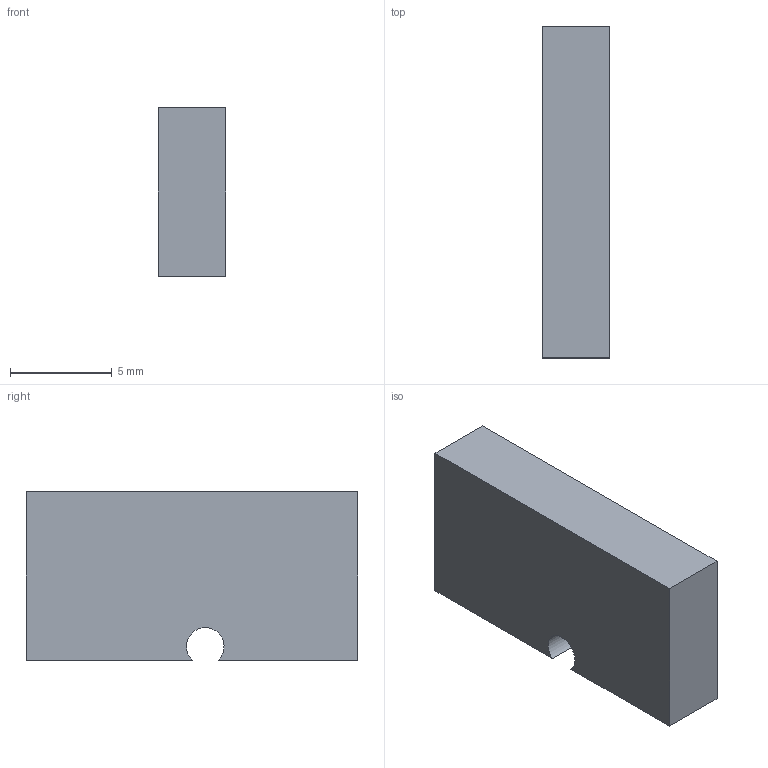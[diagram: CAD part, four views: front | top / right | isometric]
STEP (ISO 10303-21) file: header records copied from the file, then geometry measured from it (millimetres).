
FILE_DESCRIPTION(('Open CASCADE Model'),'2;1');
FILE_NAME('ADD_P01_J8_HARNESS_SADDLE','2026-09-15T14:21:06',('Author'),( 'Open CASCADE'),'Open CASCADE STEP processor 7.9','build123d', 'Unknown');
FILE_SCHEMA(('AUTOMOTIVE_DESIGN { 1 0 10303 214 1 1 1 1 }'));
Length unit declared in the file: millimetre
Products named in the file (1): ADD_P01_J8_HARNESS_SADDLE
Bounding box: 3.3 x 16.3 x 8.28 mm (x, y, z)
Volume: 437 mm3; surface area: 437.4 mm2
Topology: 1 solids, 1 shells, 9 faces, 21 edges, 14 vertices
Faces by surface type: plane 7, cylinder 2
Entity records: 538 total; most frequent: CARTESIAN_POINT 91, DIRECTION 83, LINE 51, VECTOR 51, ORIENTED_EDGE 42, PCURVE 42, DEFINITIONAL_REPRESENTATION 42, EDGE_CURVE 21
